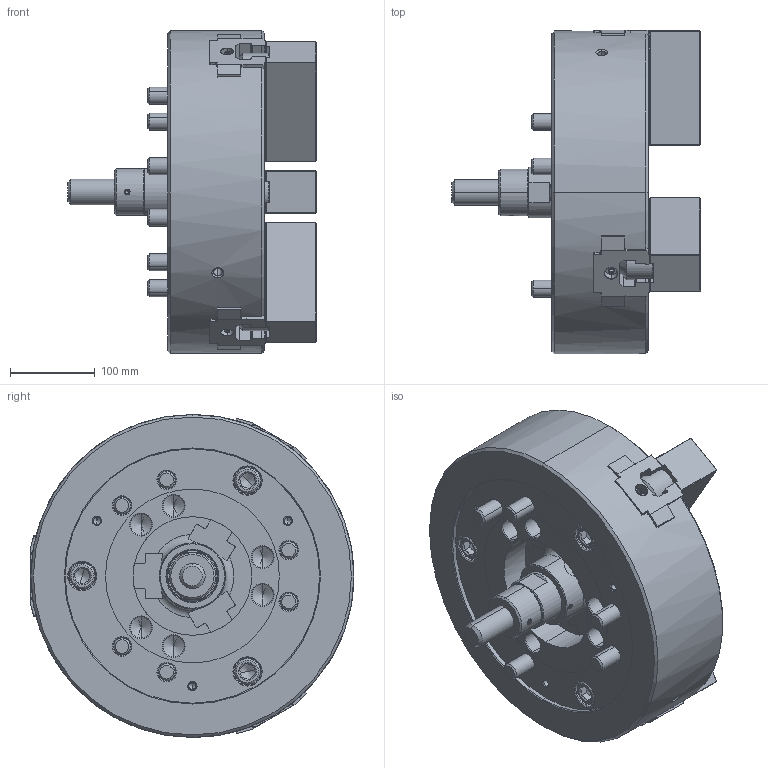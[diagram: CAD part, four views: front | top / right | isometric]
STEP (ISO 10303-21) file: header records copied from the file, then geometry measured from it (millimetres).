
FILE_DESCRIPTION (( 'STEP AP214' ), '1' );
FILE_NAME ('DT1_N-15_OUTSIDE_VIEW_UC.STEP', '2026-03-19T02:17:59', ( '' ), ( '' ), 'SwSTEP 2.0', 'SolidWorks 2022', '' );
FILE_SCHEMA (( 'AUTOMOTIVE_DESIGN' ));
Length unit declared in the file: millimetre
Products named in the file (11): DT1_N-15_DRAWSCREW^DT1_N-15; DT1_N-15_DN^DT1_N-15; DT1_N-15_TNUT^DT1_N-15; Copy of 61P321208^DT1_N-15; DT1_N-15_M20x115^DT1_N-15; DT1_N-15_COVER^DT1_N-15; DT1_N-15_SOFTJAW^DT1_N-15; DT1_N-15_BASE^DT1_N-15; DT1_N-15_M20x55^DT1_N-15; DT1_N-15_OUTSIDE_VIEW_UC; DT1_N-15_M6x12^DT1_N-15
Assembly tree (29 placements, depth 2):
  DT1_N-15_OUTSIDE_VIEW_UC
    DT1_N-15_SOFTJAW^DT1_N-15  x3
    DT1_N-15_TNUT^DT1_N-15  x6
    DT1_N-15_COVER^DT1_N-15
    DT1_N-15_DRAWSCREW^DT1_N-15
    Copy of 61P321208^DT1_N-15
    DT1_N-15_DN^DT1_N-15
    DT1_N-15_BASE^DT1_N-15
    DT1_N-15_M6x12^DT1_N-15  x3
    DT1_N-15_M20x115^DT1_N-15  x6
    DT1_N-15_M20x55^DT1_N-15  x6
Bounding box: 293 x 382 x 381 mm (x, y, z)
Volume: 13204943.3 mm3; surface area: 968054.3 mm2
Topology: 29 solids, 36 shells, 5418 faces, 15403 edges, 10101 vertices
Faces by surface type: plane 3993, cylinder 837, cone 433, bspline 95, torus 54, sphere 6
Entity records: 132022 total; most frequent: CARTESIAN_POINT 33751, ORIENTED_EDGE 22106, DIRECTION 17917, EDGE_CURVE 11053, VECTOR 8451, LINE 8451, VERTEX_POINT 7267, AXIS2_PLACEMENT_3D 4733
